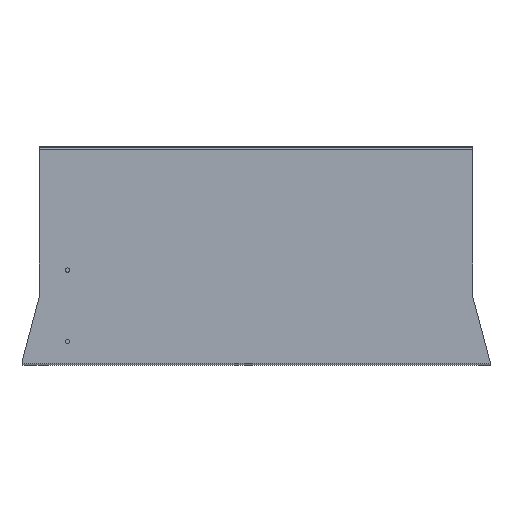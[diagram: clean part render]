
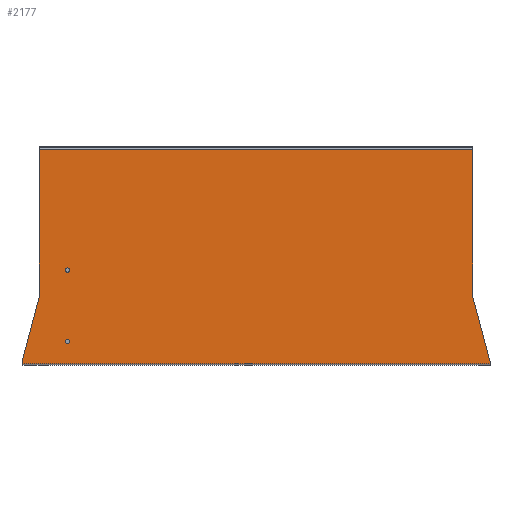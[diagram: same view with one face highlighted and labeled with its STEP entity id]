
A CAD part, left-side view. The second image highlights one B-rep face of the part: STEP entity #2177.
In plain terms, the highlighted planar face has unit normal (-1, 0, 0).
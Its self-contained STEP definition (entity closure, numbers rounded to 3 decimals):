
#568=DIRECTION('',(0.,1.,0.));
#569=VECTOR('',#568,540.);
#570=CARTESIAN_POINT('',(-150.,-20.,2.1));
#571=LINE('',#570,#569);
#586=DIRECTION('',(0.,0.,-1.));
#587=VECTOR('',#586,168.9);
#588=CARTESIAN_POINT('',(-150.,0.,248.9));
#589=LINE('',#588,#587);
#590=DIRECTION('',(0.,-0.258,-0.966));
#591=VECTOR('',#590,77.621);
#592=CARTESIAN_POINT('',(-150.,0.,80.));
#593=LINE('',#592,#591);
#594=DIRECTION('',(0.,-0.258,0.966));
#595=VECTOR('',#594,77.621);
#596=CARTESIAN_POINT('',(-150.,520.,5.));
#597=LINE('',#596,#595);
#598=DIRECTION('',(0.,0.,-1.));
#599=VECTOR('',#598,168.9);
#600=CARTESIAN_POINT('',(-150.,500.,248.9));
#601=LINE('',#600,#599);
#602=CARTESIAN_POINT('',(-150.,467.5,27.5));
#603=DIRECTION('',(-1.,0.,0.));
#604=DIRECTION('',(0.,1.,0.));
#605=AXIS2_PLACEMENT_3D('',#602,#603,#604);
#607=CARTESIAN_POINT('',(-150.,467.5,27.5));
#608=DIRECTION('',(-1.,0.,0.));
#609=DIRECTION('',(0.,-1.,0.));
#610=AXIS2_PLACEMENT_3D('',#607,#608,#609);
#612=CARTESIAN_POINT('',(-150.,467.5,110.));
#613=DIRECTION('',(-1.,0.,0.));
#614=DIRECTION('',(0.,1.,0.));
#615=AXIS2_PLACEMENT_3D('',#612,#613,#614);
#617=CARTESIAN_POINT('',(-150.,467.5,110.));
#618=DIRECTION('',(-1.,0.,0.));
#619=DIRECTION('',(0.,-1.,0.));
#620=AXIS2_PLACEMENT_3D('',#617,#618,#619);
#635=DIRECTION('',(0.,1.,0.));
#636=VECTOR('',#635,500.);
#637=CARTESIAN_POINT('',(-150.,0.,248.9));
#638=LINE('',#637,#636);
#660=DIRECTION('',(0.,0.,-1.));
#661=VECTOR('',#660,2.9);
#662=CARTESIAN_POINT('',(-150.,520.,5.));
#663=LINE('',#662,#661);
#936=DIRECTION('',(0.,0.,-1.));
#937=VECTOR('',#936,2.9);
#938=CARTESIAN_POINT('',(-150.,-20.,5.));
#939=LINE('',#938,#937);
#1070=CARTESIAN_POINT('',(-150.,520.,2.1));
#1072=VERTEX_POINT('',#1070);
#1074=CARTESIAN_POINT('',(-150.,-20.,2.1));
#1075=VERTEX_POINT('',#1074);
#1086=CARTESIAN_POINT('',(-150.,470.,27.5));
#1087=CARTESIAN_POINT('',(-150.,465.,27.5));
#1088=VERTEX_POINT('',#1086);
#1089=VERTEX_POINT('',#1087);
#1090=CARTESIAN_POINT('',(-150.,470.,110.));
#1091=CARTESIAN_POINT('',(-150.,465.,110.));
#1092=VERTEX_POINT('',#1090);
#1093=VERTEX_POINT('',#1091);
#1102=CARTESIAN_POINT('',(-150.,0.,248.9));
#1103=CARTESIAN_POINT('',(-150.,0.,80.));
#1104=VERTEX_POINT('',#1102);
#1105=VERTEX_POINT('',#1103);
#1106=CARTESIAN_POINT('',(-150.,-20.,5.));
#1107=VERTEX_POINT('',#1106);
#1108=CARTESIAN_POINT('',(-150.,520.,5.));
#1109=CARTESIAN_POINT('',(-150.,500.,80.));
#1110=VERTEX_POINT('',#1108);
#1111=VERTEX_POINT('',#1109);
#1112=CARTESIAN_POINT('',(-150.,500.,248.9));
#1113=VERTEX_POINT('',#1112);
#2143=CARTESIAN_POINT('',(-150.,-20.,0.));
#2144=DIRECTION('',(-1.,0.,0.));
#2145=DIRECTION('',(0.,0.,1.));
#2146=AXIS2_PLACEMENT_3D('',#2143,#2144,#2145);
#2147=PLANE('',#2146);
#2149=ORIENTED_EDGE('',*,*,#2148,.T.);
#2151=ORIENTED_EDGE('',*,*,#2150,.T.);
#2153=ORIENTED_EDGE('',*,*,#2152,.T.);
#2154=ORIENTED_EDGE('',*,*,#2134,.T.);
#2156=ORIENTED_EDGE('',*,*,#2155,.F.);
#2158=ORIENTED_EDGE('',*,*,#2157,.T.);
#2160=ORIENTED_EDGE('',*,*,#2159,.F.);
#2162=ORIENTED_EDGE('',*,*,#2161,.F.);
#2163=EDGE_LOOP('',(#2149,#2151,#2153,#2154,#2156,#2158,#2160,#2162));
#2164=FACE_OUTER_BOUND('',#2163,.F.);
#2166=ORIENTED_EDGE('',*,*,#2165,.T.);
#2168=ORIENTED_EDGE('',*,*,#2167,.T.);
#2169=EDGE_LOOP('',(#2166,#2168));
#2170=FACE_BOUND('',#2169,.F.);
#2172=ORIENTED_EDGE('',*,*,#2171,.T.);
#2174=ORIENTED_EDGE('',*,*,#2173,.T.);
#2175=EDGE_LOOP('',(#2172,#2174));
#2176=FACE_BOUND('',#2175,.F.);
#606=CIRCLE('',#605,2.5);
#611=CIRCLE('',#610,2.5);
#616=CIRCLE('',#615,2.5);
#621=CIRCLE('',#620,2.5);
#2134=EDGE_CURVE('',#1075,#1072,#571,.T.);
#2148=EDGE_CURVE('',#1104,#1105,#589,.T.);
#2150=EDGE_CURVE('',#1105,#1107,#593,.T.);
#2152=EDGE_CURVE('',#1107,#1075,#939,.T.);
#2155=EDGE_CURVE('',#1110,#1072,#663,.T.);
#2157=EDGE_CURVE('',#1110,#1111,#597,.T.);
#2159=EDGE_CURVE('',#1113,#1111,#601,.T.);
#2161=EDGE_CURVE('',#1104,#1113,#638,.T.);
#2165=EDGE_CURVE('',#1088,#1089,#606,.T.);
#2167=EDGE_CURVE('',#1089,#1088,#611,.T.);
#2171=EDGE_CURVE('',#1092,#1093,#616,.T.);
#2173=EDGE_CURVE('',#1093,#1092,#621,.T.);
#2177=ADVANCED_FACE('',(#2164,#2170,#2176),#2147,.T.);
